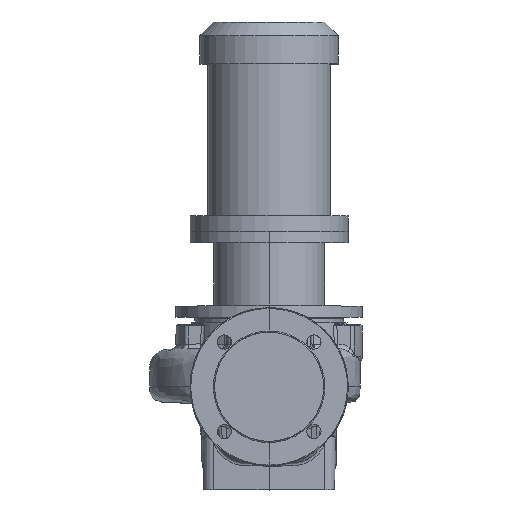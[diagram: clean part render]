
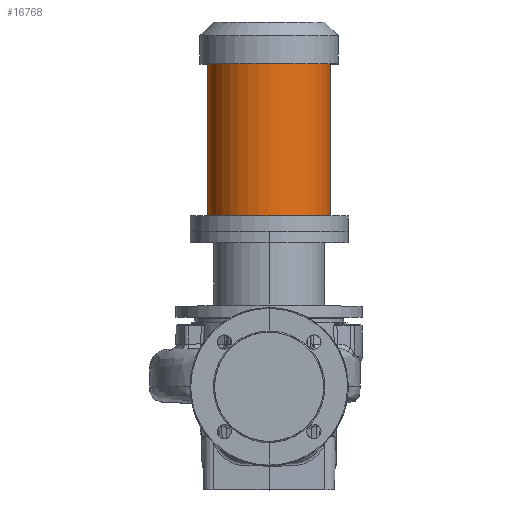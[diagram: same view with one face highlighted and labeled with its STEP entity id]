
A CAD part, top view. The second image highlights one B-rep face of the part: STEP entity #16768.
In plain terms, the highlighted cylindrical face has radius 77.5 mm (diameter 155 mm), a partial arc.
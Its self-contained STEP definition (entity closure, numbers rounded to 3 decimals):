
#1526 = DIRECTION ( 'NONE',  ( -1., 0., 0. ) ) ;
#2403 = CARTESIAN_POINT ( 'NONE',  ( 0., 196.3, 0. ) ) ;
#4336 = ORIENTED_EDGE ( 'NONE', *, *, #20231, .F. ) ;
#7413 = VERTEX_POINT ( 'NONE', #49152 ) ;
#7705 = DIRECTION ( 'NONE',  ( -1., 0., 0. ) ) ;
#14384 = EDGE_CURVE ( 'NONE', #17458, #39726, #43925, .T. ) ;
#14722 = ORIENTED_EDGE ( 'NONE', *, *, #58673, .F. ) ;
#15865 = CARTESIAN_POINT ( 'NONE',  ( -77.5, 408.3, 0. ) ) ;
#16317 = CARTESIAN_POINT ( 'NONE',  ( 77.5, 408.3, 0. ) ) ;
#16768 = ADVANCED_FACE ( 'NONE', ( #53449 ), #32268, .T. ) ;
#17458 = VERTEX_POINT ( 'NONE', #16317 ) ;
#19323 = AXIS2_PLACEMENT_3D ( 'NONE', #54396, #25427, #1526 ) ;
#20231 = EDGE_CURVE ( 'NONE', #54598, #7413, #26732, .T. ) ;
#20511 = EDGE_CURVE ( 'NONE', #39726, #7413, #42575, .T. ) ;
#22123 = DIRECTION ( 'NONE',  ( 0., -1., 0. ) ) ;
#23759 = AXIS2_PLACEMENT_3D ( 'NONE', #35496, #50527, #49886 ) ;
#24647 = ORIENTED_EDGE ( 'NONE', *, *, #20511, .T. ) ;
#25278 = CARTESIAN_POINT ( 'NONE',  ( 77.5, 196.3, 0. ) ) ;
#25427 = DIRECTION ( 'NONE',  ( 0., -1., 0. ) ) ;
#26299 = CARTESIAN_POINT ( 'NONE',  ( -77.5, 196.3, 0. ) ) ;
#26732 = CIRCLE ( 'NONE', #19323, 77.5 ) ;
#28154 = VECTOR ( 'NONE', #22123, 1000. ) ;
#31423 = VECTOR ( 'NONE', #59090, 1000. ) ;
#32268 = CYLINDRICAL_SURFACE ( 'NONE', #43387, 77.5 ) ;
#35496 = CARTESIAN_POINT ( 'NONE',  ( 0., 408.3, 0. ) ) ;
#39726 = VERTEX_POINT ( 'NONE', #15865 ) ;
#42317 = CARTESIAN_POINT ( 'NONE',  ( 77.5, 216.3, 0. ) ) ;
#42575 = LINE ( 'NONE', #26299, #28154 ) ;
#42589 = ORIENTED_EDGE ( 'NONE', *, *, #14384, .T. ) ;
#43387 = AXIS2_PLACEMENT_3D ( 'NONE', #2403, #59468, #7705 ) ;
#43925 = CIRCLE ( 'NONE', #23759, 77.5 ) ;
#44277 = LINE ( 'NONE', #25278, #31423 ) ;
#49152 = CARTESIAN_POINT ( 'NONE',  ( -77.5, 216.3, 0. ) ) ;
#49886 = DIRECTION ( 'NONE',  ( -1., 0., 0. ) ) ;
#50527 = DIRECTION ( 'NONE',  ( 0., -1., 0. ) ) ;
#53449 = FACE_OUTER_BOUND ( 'NONE', #56013, .T. ) ;
#54396 = CARTESIAN_POINT ( 'NONE',  ( 0., 216.3, 0. ) ) ;
#54598 = VERTEX_POINT ( 'NONE', #42317 ) ;
#56013 = EDGE_LOOP ( 'NONE', ( #14722, #42589, #24647, #4336 ) ) ;
#58673 = EDGE_CURVE ( 'NONE', #17458, #54598, #44277, .T. ) ;
#59090 = DIRECTION ( 'NONE',  ( 0., -1., 0. ) ) ;
#59468 = DIRECTION ( 'NONE',  ( 0., -1., 0. ) ) ;
